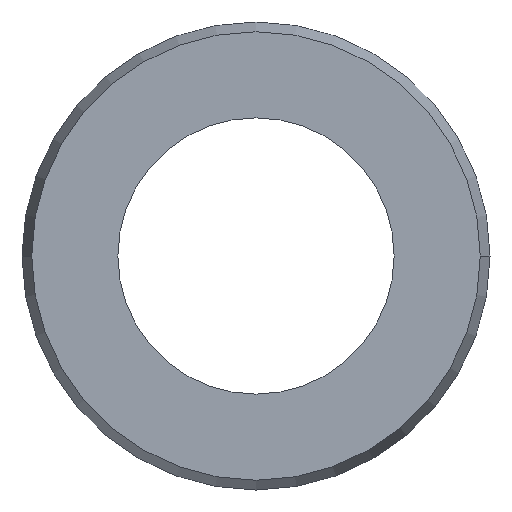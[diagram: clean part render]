
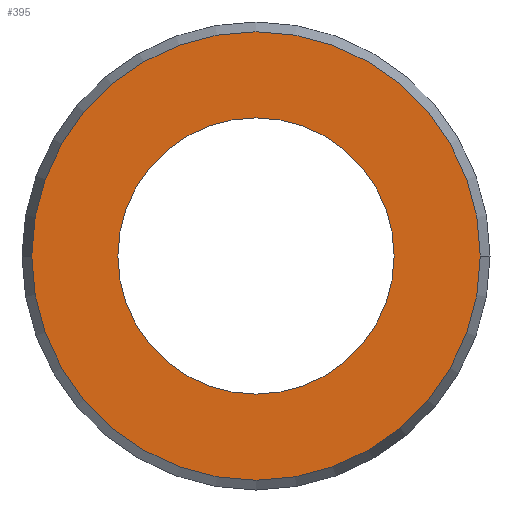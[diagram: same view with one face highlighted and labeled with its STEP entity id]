
A CAD part, left-side view. The second image highlights one B-rep face of the part: STEP entity #395.
In plain terms, the highlighted planar face has unit normal (-1, 0, 0).
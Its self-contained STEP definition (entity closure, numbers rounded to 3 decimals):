
#1=CARTESIAN_POINT('',(-3.,0.,0.));
#2=DIRECTION('',(1.,0.,0.));
#3=DIRECTION('',(0.,1.,0.));
#4=AXIS2_PLACEMENT_3D('',#1,#2,#3);
#14=CARTESIAN_POINT('',(-3.,0.,0.));
#15=DIRECTION('',(-1.,0.,0.));
#16=DIRECTION('',(0.,1.,0.));
#17=AXIS2_PLACEMENT_3D('',#14,#15,#16);
#117=CARTESIAN_POINT('',(-3.,0.,0.));
#118=DIRECTION('',(-1.,0.,0.));
#119=DIRECTION('',(0.,1.,0.));
#120=AXIS2_PLACEMENT_3D('',#117,#118,#119);
#122=CARTESIAN_POINT('',(-3.,0.,0.));
#123=DIRECTION('',(-1.,0.,0.));
#124=DIRECTION('',(0.,-1.,0.));
#125=AXIS2_PLACEMENT_3D('',#122,#123,#124);
#149=CARTESIAN_POINT('',(-3.,3.1,0.));
#151=VERTEX_POINT('',#149);
#157=CARTESIAN_POINT('',(-3.,-3.1,0.));
#159=VERTEX_POINT('',#157);
#181=CARTESIAN_POINT('',(-3.,5.032,0.));
#182=CARTESIAN_POINT('',(-3.,-5.032,0.));
#183=VERTEX_POINT('',#181);
#184=VERTEX_POINT('',#182);
#381=CARTESIAN_POINT('',(-3.,0.,0.));
#382=DIRECTION('',(1.,0.,0.));
#383=DIRECTION('',(0.,-1.,0.));
#384=AXIS2_PLACEMENT_3D('',#381,#382,#383);
#385=PLANE('',#384);
#387=ORIENTED_EDGE('',*,*,#386,.F.);
#388=ORIENTED_EDGE('',*,*,#371,.F.);
#389=EDGE_LOOP('',(#387,#388));
#390=FACE_OUTER_BOUND('',#389,.F.);
#391=ORIENTED_EDGE('',*,*,#196,.F.);
#392=ORIENTED_EDGE('',*,*,#214,.T.);
#393=EDGE_LOOP('',(#391,#392));
#394=FACE_BOUND('',#393,.F.);
#395=ADVANCED_FACE('',(#390,#394),#385,.F.);
#5=CIRCLE('',#4,3.1);
#18=CIRCLE('',#17,3.1);
#121=CIRCLE('',#120,5.032);
#126=CIRCLE('',#125,5.032);
#196=EDGE_CURVE('',#151,#159,#5,.T.);
#214=EDGE_CURVE('',#151,#159,#18,.T.);
#371=EDGE_CURVE('',#184,#183,#126,.T.);
#386=EDGE_CURVE('',#183,#184,#121,.T.);
